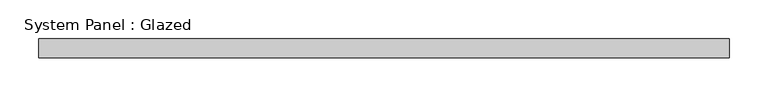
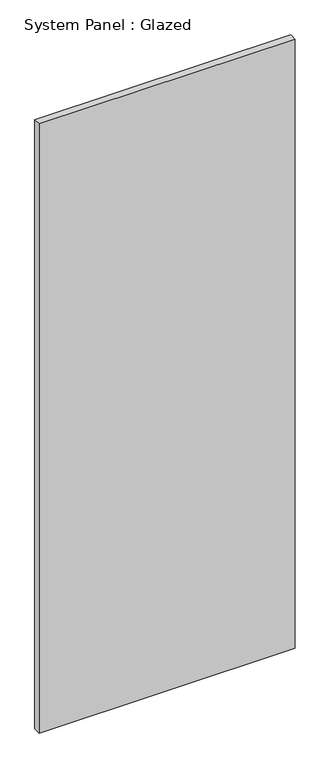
"""IFC4 building model written with IfcOpenShell, lengths in millimetres: plate geometry, System Panel : Glazed."""

from ifc_helpers import new_model, si_unit, origin, origin_with_axes, place, context, project, spatial, polyline, outline, extrude, source, transform, mapped, element, save


def system_panel_glazed_efa95759(model_context):
    return source(origin(), model_context, "Body", "SweptSolid", [
        extrude(outline(polyline([(447.4999998, -72.5), (-447.4999998, -72.5), (-447.4999998, -47.5), (447.4999998, -47.5), (447.4999998, -72.5)])), origin_with_axes(), (0.0, 0.0, 1.0), 2249.9999998),
    ])


if __name__ == "__main__":
    model = new_model("IFC4")
    model_context = context("Model", 3, world=origin())
    ifc_project = project(units=[si_unit("LENGTHUNIT", "METRE", prefix="MILLI")], contexts=[model_context])
    site = spatial("IfcSite", under=ifc_project)
    building = spatial("IfcBuilding", under=site)
    placement = place(None, origin())
    system_panel_glazed_shape = system_panel_glazed_efa95759(model_context)
    element("IfcPlate", 1, ObjectType="System Panel : Glazed", at=placement, inside=building, context=model_context, shape_type="MappedRepresentation", body=[
        mapped(system_panel_glazed_shape, transform((0.0, 0.0, 0.0), x_axis=(1.0, 0.0, 0.0), y_axis=(0.0, 1.0, 0.0), z_axis=(0.0, 0.0, 1.0))),
    ])
    save(model, "model.ifc")
